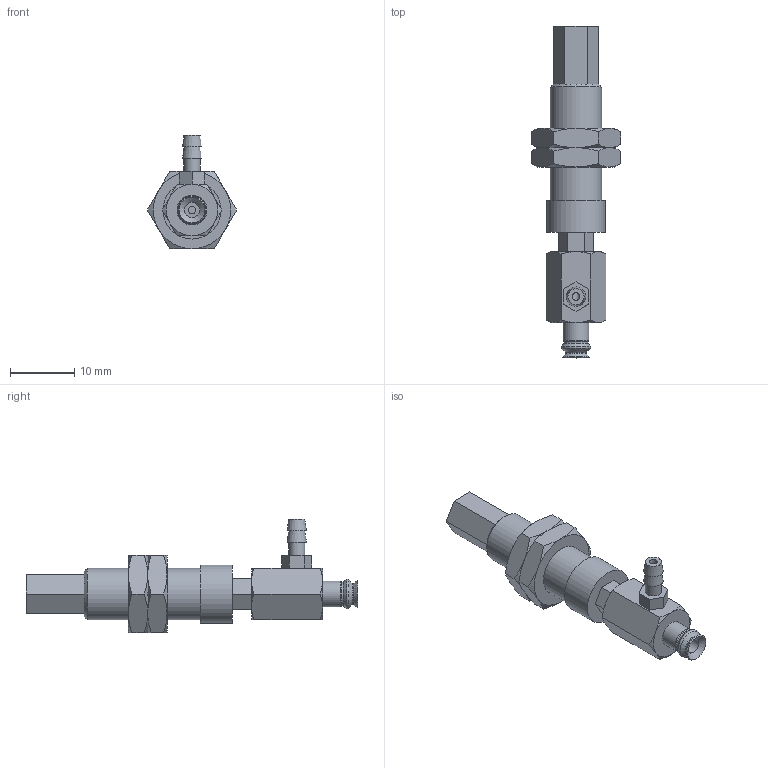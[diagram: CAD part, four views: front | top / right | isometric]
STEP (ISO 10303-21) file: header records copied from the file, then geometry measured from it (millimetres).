
FILE_DESCRIPTION(('STEP AP203'),'1');
FILE_NAME('-T.stp','2025-04-24T05:06:03',(' '),(' '),'Spatial InterOp 3D',' ',' ');
FILE_SCHEMA(('CONFIG_CONTROL_DESIGN'));
Length unit declared in the file: millimetre
Products named in the file (7): BNABPJYH-4-3-※-T; CONNECTOR-H-2A-3; Nut-2A-3-h; NAPFTH-2A-3-FBODY; NAPFTH-2A-3-MBODY; BPJG-4-※; T (2)
Assembly tree (7 placements, depth 2):
  BNABPJYH-4-3-※-T
    CONNECTOR-H-2A-3
    Nut-2A-3-h  x2
    NAPFTH-2A-3-FBODY
    NAPFTH-2A-3-MBODY
    BPJG-4-※
    T (2)
Bounding box: 13.86 x 51.5 x 17.6 mm (x, y, z)
Volume: 2707.7 mm3; surface area: 3370.2 mm2
Topology: 7 solids, 7 shells, 158 faces, 344 edges, 211 vertices
Faces by surface type: plane 75, cone 57, cylinder 17, torus 9
Full cylindrical faces by diameter (mm): 1.2 x2, 2 x2, 2.4 x1, 2.459 x2, 2.5 x1, 3 x4, 4 x1, 7.188 x2, 8 x1, 9 x1
Entity records: 3962 total; most frequent: CARTESIAN_POINT 901, DIRECTION 560, ORIENTED_EDGE 486, EDGE_CURVE 243, AXIS2_PLACEMENT_3D 228, EDGE_LOOP 200, VERTEX_POINT 173, FACE_OUTER_BOUND 160
